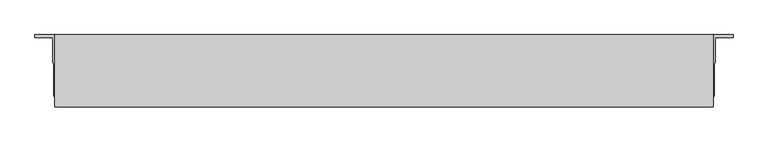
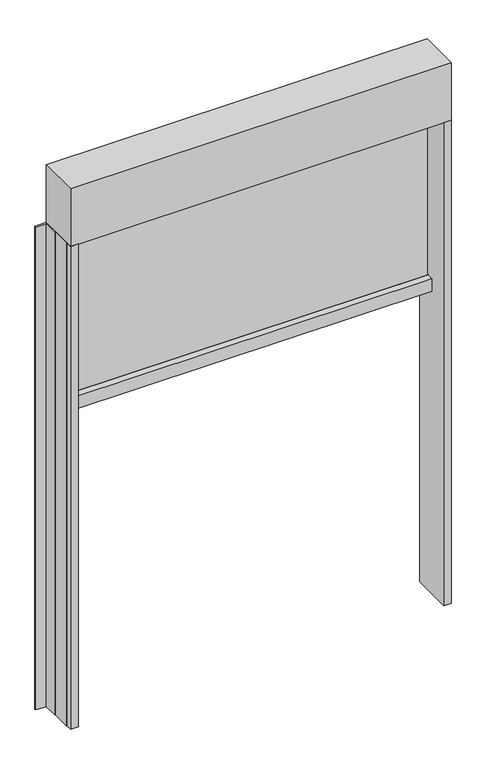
"""IFC4 building model written with IfcOpenShell, lengths in millimetres: proxy geometry, Renson_Fixscreen_Minimal_Single : Recessed - Front of the window - Medium - Access downwards - Fabric close to the window."""

from ifc_helpers import new_model, si_unit, point, frame, frame_2d, origin, origin_with_axes, place, context, project, spatial, polyline, circle_curve, trimmed, segment, composite_curve, outline, extrude, source, transform, mapped, element, save


def generic_models_67a18d92(model_context):
    return source(origin(), model_context, "Body", "SweptSolid", [
        extrude(outline(polyline([(-480.0, 693.5958591), (-480.0, 583.5959909), (-500.0, 583.5959909), (-500.0, 598.3306743), (-501.7, 600.8591058), (-501.7, 648.8596455), (-503.0, 650.9880726), (-503.0, 689.6512978), (-529.9999827, 689.6512978), (-529.9999827, 693.5958591), (-480.0, 693.5958591)])), origin_with_axes(), (0.0, 0.0, 1.0), 1340.0),
        extrude(outline(polyline([(480.0, 693.5958591), (529.9999827, 693.5958591), (529.9999827, 689.6512978), (503.0, 689.6512978), (503.0, 650.9880726), (501.7, 648.8596455), (501.7, 600.8591058), (500.0, 598.3306743), (500.0, 583.5959909), (480.0, 583.5959909), (480.0, 693.5958591)])), origin_with_axes(), (0.0, 0.0, 1.0), 1340.0),
        extrude(outline(composite_curve([segment(polyline([(678.5959909, 840.0), (638.0960943, 840.0), (638.0960943, 874.1156826), (655.2198229, 875.0)]), True, "CONTINUOUS"), segment(trimmed(circle_curve(frame_2d((655.2459909, 874.5006852)), 0.5), [point((655.2198229, 875.0))], [point((655.7459909, 874.5006852))], False, "CARTESIAN"), True, "CONTINUOUS"), segment(polyline([(655.7459909, 874.5006852), (655.7459909, 873.5367989), (654.4808525, 873.5367989), (655.221156, 869.0119223)]), True, "CONTINUOUS"), segment(trimmed(circle_curve(frame_2d((615.7459909, 862.5534911)), 40.0), [point((655.221156, 869.0119223))], [point((655.7459909, 862.5534911))], False, "CARTESIAN"), True, "CONTINUOUS"), segment(polyline([(655.7459909, 862.5534911), (655.7459909, 854.5006852)]), True, "CONTINUOUS"), segment(trimmed(circle_curve(frame_2d((657.7459909, 854.5006852)), 2.0), [point((655.7459909, 854.5006852))], [point((657.7459909, 852.5006852))], True, "CARTESIAN"), True, "CONTINUOUS"), segment(polyline([(657.7459909, 852.5006852), (659.4459909, 852.5006852)]), True, "CONTINUOUS"), segment(trimmed(circle_curve(frame_2d((659.4459909, 854.5006852)), 2.0), [point((659.4459909, 852.5006852))], [point((661.4459909, 854.5006852))], True, "CARTESIAN"), True, "CONTINUOUS"), segment(polyline([(661.4459909, 854.5006852), (661.4459909, 862.5534911)]), True, "CONTINUOUS"), segment(trimmed(circle_curve(frame_2d((701.4459909, 862.5534911)), 40.0), [point((661.4459909, 862.5534911))], [point((661.9708257, 869.0119223))], False, "CARTESIAN"), True, "CONTINUOUS"), segment(polyline([(661.9708257, 869.0119223), (662.7111292, 873.5367989), (661.4459909, 873.5367989), (661.4459909, 874.5006852)]), True, "CONTINUOUS"), segment(trimmed(circle_curve(frame_2d((661.9459909, 874.5006852)), 0.5), [point((661.4459909, 874.5006852))], [point((661.9721588, 875.0))], False, "CARTESIAN"), True, "CONTINUOUS"), segment(polyline([(661.9721588, 875.0), (678.5959909, 874.1156826), (678.5959909, 840.0)]), True, "CONTINUOUS")], self_intersect=False)), frame((-480.0, 0.0, 0.0), z_axis=(1.0, 0.0, 0.0), x_axis=(0.0, 1.0, 0.0)), (0.0, 0.0, 1.0), 960.0),
        extrude(outline(polyline([(-500.0, 583.5959909), (-500.0, 693.5959909), (500.0, 693.5959909), (500.0, 583.5959909), (-500.0, 583.5959909)])), frame((0.0, 0.0, 1340.0), z_axis=(0.0, 0.0, 1.0), x_axis=(1.0, 0.0, 0.0)), (0.0, 0.0, 1.0), 160.0),
        extrude(outline(polyline([(-480.0, 660.0959909), (480.0, 660.0959909), (480.0, 657.0959909), (-480.0, 657.0959909), (-480.0, 660.0959909)])), frame((0.0, 0.0, 852.5006852), z_axis=(0.0, 0.0, 1.0), x_axis=(1.0, 0.0, 0.0)), (0.0, 0.0, 1.0), 487.4993148),
    ])


if __name__ == "__main__":
    model = new_model("IFC4")
    model_context = context("Model", 3, world=origin())
    ifc_project = project(units=[si_unit("LENGTHUNIT", "METRE", prefix="MILLI")], contexts=[model_context])
    site = spatial("IfcSite", under=ifc_project)
    building = spatial("IfcBuilding", under=site)
    placement = place(None, origin())
    generic_models_shape = generic_models_67a18d92(model_context)
    element("IfcBuildingElementProxy", 1, Name="Renson_Fixscreen_Minimal_Single : Recessed - Front of the window - Medium - Access downwards - Fabric close to the window", ObjectType="Renson_Fixscreen_Minimal_Single : Recessed - Front of the window - Medium - Access downwards - Fabric close to the window", at=placement, inside=building, context=model_context, shape_type="MappedRepresentation", body=[
        mapped(generic_models_shape, transform((0.0, 0.0, 0.0), x_axis=(1.0, 0.0, 0.0), y_axis=(0.0, 1.0, 0.0), z_axis=(0.0, 0.0, 1.0))),
    ])
    save(model, "model.ifc")
